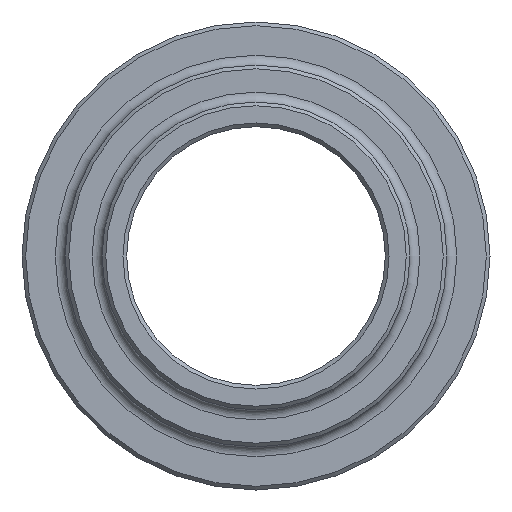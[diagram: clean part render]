
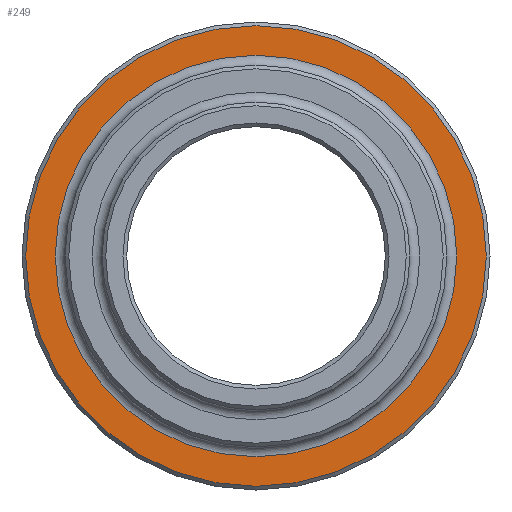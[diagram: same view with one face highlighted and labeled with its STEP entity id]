
A CAD part, left-side view. The second image highlights one B-rep face of the part: STEP entity #249.
In plain terms, the highlighted planar face has unit normal (-1, 0, 0).
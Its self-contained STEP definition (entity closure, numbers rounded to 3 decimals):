
#22=FACE_BOUND('',#76,.T.);
#26=PLANE('',#298);
#58=FACE_OUTER_BOUND('',#75,.T.);
#75=EDGE_LOOP('',(#196));
#76=EDGE_LOOP('',(#197));
#98=CIRCLE('',#293,16.3);
#102=CIRCLE('',#299,18.7);
#122=VERTEX_POINT('',#437);
#125=VERTEX_POINT('',#448);
#147=EDGE_CURVE('',#122,#122,#98,.T.);
#152=EDGE_CURVE('',#125,#125,#102,.T.);
#196=ORIENTED_EDGE('',*,*,#152,.F.);
#197=ORIENTED_EDGE('',*,*,#147,.F.);
#249=ADVANCED_FACE('',(#58,#22),#26,.T.);
#293=AXIS2_PLACEMENT_3D('',#439,#350,#351);
#298=AXIS2_PLACEMENT_3D('',#447,#361,#362);
#299=AXIS2_PLACEMENT_3D('',#449,#363,#364);
#350=DIRECTION('center_axis',(-1.,0.,0.));
#351=DIRECTION('ref_axis',(0.,-1.,0.));
#361=DIRECTION('center_axis',(-1.,0.,0.));
#362=DIRECTION('ref_axis',(0.,0.,1.));
#363=DIRECTION('center_axis',(1.,0.,0.));
#364=DIRECTION('ref_axis',(0.,-1.,0.));
#437=CARTESIAN_POINT('',(-3.5,0.,16.3));
#439=CARTESIAN_POINT('Origin',(-3.5,0.,0.));
#447=CARTESIAN_POINT('Origin',(-3.5,19.,0.));
#448=CARTESIAN_POINT('',(-3.5,18.7,0.));
#449=CARTESIAN_POINT('Origin',(-3.5,0.,0.));
